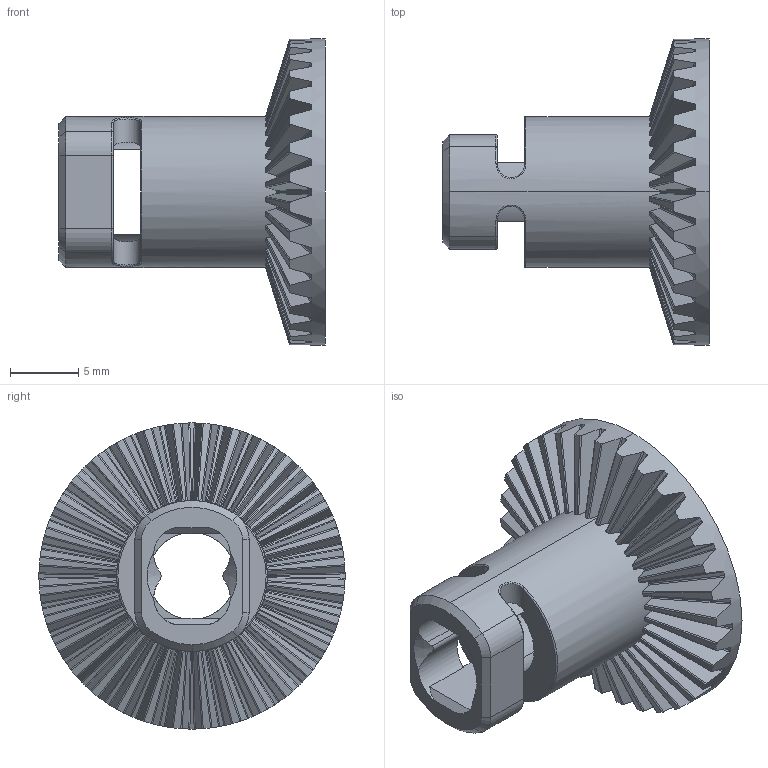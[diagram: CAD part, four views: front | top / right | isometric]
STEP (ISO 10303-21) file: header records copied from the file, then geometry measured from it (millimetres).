
FILE_DESCRIPTION (( 'STEP AP203' ), '1' );
FILE_NAME ('Nouvelle_roue dentee''.STEP', '2002-12-20T17:21:40', ( 'JDaures' ), ( 'Rascol' ), 'SwSTEP 2.0', 'SolidWorks 2002127', '' );
FILE_SCHEMA (( 'CONFIG_CONTROL_DESIGN' ));
Length unit declared in the file: millimetre
Products named in the file (1): Nouvelle_roue dentee''
Bounding box: 19.56 x 22.5 x 22.5 mm (x, y, z)
Volume: 1702.5 mm3; surface area: 2164 mm2
Topology: 1 solids, 1 shells, 395 faces, 1123 edges, 728 vertices
Faces by surface type: plane 130, cylinder 108, bspline 88, cone 47, torus 22
Entity records: 23979 total; most frequent: CARTESIAN_POINT 15220, ORIENTED_EDGE 2246, DIRECTION 1301, EDGE_CURVE 1123, VERTEX_POINT 728, AXIS2_PLACEMENT_3D 530, B_SPLINE_CURVE_WITH_KNOTS 458, EDGE_LOOP 399
